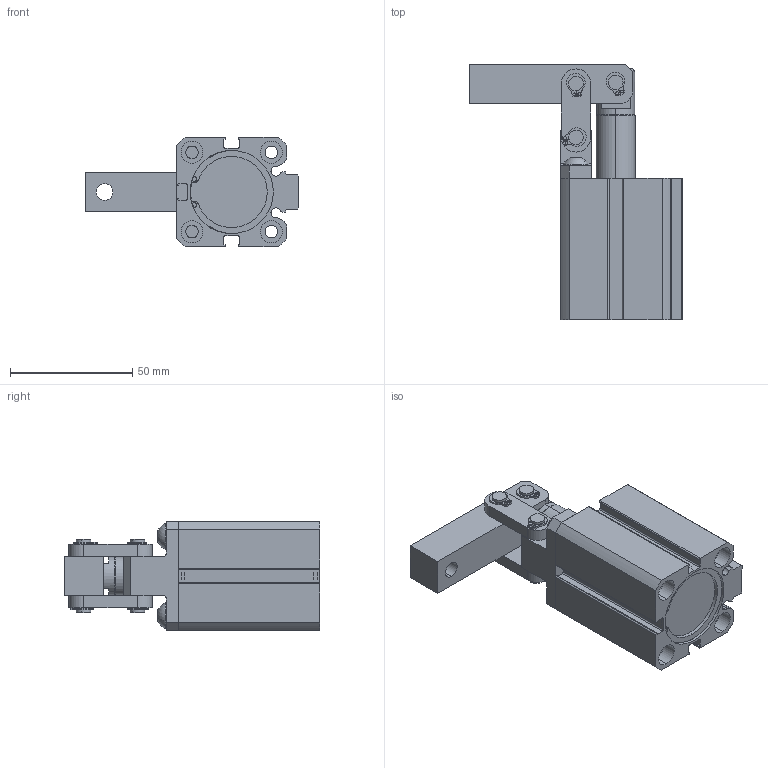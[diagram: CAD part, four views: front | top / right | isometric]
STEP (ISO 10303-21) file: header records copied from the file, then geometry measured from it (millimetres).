
FILE_DESCRIPTION (( 'STEP AP203' ), '1' );
FILE_NAME ('510-32_MONTAJ.STEP', '2022-06-23T07:31:39', ( '' ), ( '' ), 'SwSTEP 2.0', 'SolidWorks 2020', '' );
FILE_SCHEMA (( 'CONFIG_CONTROL_DESIGN' ));
Length unit declared in the file: millimetre
Products named in the file (19): KS-A 32 BORU_MANYET˜KL˜ BORU; KS-A 32 ÖN KAPAK_MANYET˜KL˜ ˜€˜N; 510-32_MONTAJ; 茿P 34  DIN 5008  JV; BAÐLANTILAR^510-32_MONTAJ; K52-016 PU KE荅; M6x16_BOMBE_BAÞLI_CÝVATA_ISO 7380; 510-32_Ø6x30_Mil; K58-032  PÝSTON KEÇESÝ; 510-32_GÖVDE; DIN 471 Ø6 Segman_Circlip DIN 471 - 8 x 0.8; 510-32_MAFSAL; 510-32_Ø6x20_Mil; KS-A 32x25-GZ150422 S尳嵣D嵬; KS-A 32 ARKA KAPAK_MANYET˜KL˜ ˜€˜N; ﾘ16 SﾝLﾝNDﾝR MﾝLﾝ; M8x1,25; 32  KAPAK O-RÝNGÝ (28x1,5); 510-32_BASKI_KOLU
Assembly tree (28 placements, depth 3):
  510-32_MONTAJ
    510-32_GÖVDE
    510-32_BASKI_KOLU
    510-32_MAFSAL  x2
    510-32_Ø6x30_Mil  x2
    510-32_Ø6x20_Mil
    BAÐLANTILAR^510-32_MONTAJ
      M6x16_BOMBE_BAÞLI_CÝVATA_ISO 7380  x2
      DIN 471 Ø6 Segman_Circlip DIN 471 - 8 x 0.8  x6
    KS-A 32x25-GZ150422 S尳嵣D嵬
      KS-A 32 BORU_MANYET˜KL˜ BORU
      32  KAPAK O-RÝNGÝ (28x1,5)  x2
      KS-A 32 ÖN KAPAK_MANYET˜KL˜ ˜€˜N
      K52-016 PU KE荅
      ﾘ16 SﾝLﾝNDﾝR MﾝLﾝ
      茿P 34  DIN 5008  JV  x2
      K58-032  PÝSTON KEÇESÝ
      KS-A 32 ARKA KAPAK_MANYET˜KL˜ ˜€˜N
      M8x1,25
Bounding box: 87.5 x 104.74 x 45 mm (x, y, z)
Volume: 110832.9 mm3; surface area: 65835.7 mm2
Topology: 32 solids, 32 shells, 888 faces, 2152 edges, 1386 vertices
Faces by surface type: cylinder 479, plane 258, cone 85, bspline 58, torus 4, sphere 4
Entity records: 24905 total; most frequent: CARTESIAN_POINT 5689, DIRECTION 3884, ORIENTED_EDGE 3348, EDGE_CURVE 1674, AXIS2_PLACEMENT_3D 1605, VERTEX_POINT 1070, CIRCLE 924, EDGE_LOOP 820
